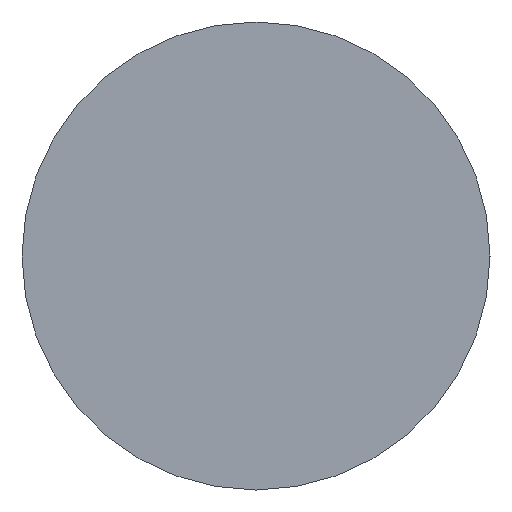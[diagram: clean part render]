
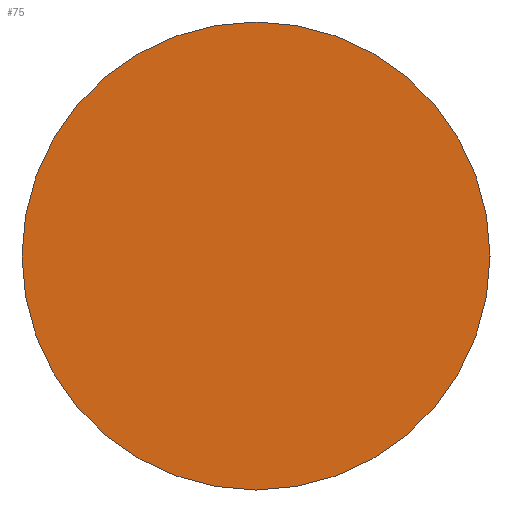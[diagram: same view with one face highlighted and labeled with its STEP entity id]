
A CAD part, left-side view. The second image highlights one B-rep face of the part: STEP entity #75.
In plain terms, the highlighted planar face has unit normal (-1, 0, 0).
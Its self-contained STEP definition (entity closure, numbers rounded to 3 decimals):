
#40 = FACE_OUTER_BOUND ( 'NONE', #197, .T. ) ;
#44 = AXIS2_PLACEMENT_3D ( 'NONE', #99, #371, #459 ) ;
#48 = CARTESIAN_POINT ( 'NONE',  ( 0., 0., 15.5 ) ) ;
#75 = ADVANCED_FACE ( 'NONE', ( #40 ), #229, .F. ) ;
#99 = CARTESIAN_POINT ( 'NONE',  ( 0., 0., 0. ) ) ;
#120 = CARTESIAN_POINT ( 'NONE',  ( 0., 0., 0. ) ) ;
#138 = CIRCLE ( 'NONE', #463, 15.5 ) ;
#176 = ORIENTED_EDGE ( 'NONE', *, *, #486, .T. ) ;
#177 = EDGE_CURVE ( 'NONE', #621, #304, #138, .T. ) ;
#189 = DIRECTION ( 'NONE',  ( 0., 0., 1. ) ) ;
#197 = EDGE_LOOP ( 'NONE', ( #596, #176 ) ) ;
#229 = PLANE ( 'NONE',  #44 ) ;
#304 = VERTEX_POINT ( 'NONE', #353 ) ;
#322 = CARTESIAN_POINT ( 'NONE',  ( 0., 0., 0. ) ) ;
#353 = CARTESIAN_POINT ( 'NONE',  ( 0., 0., -15.5 ) ) ;
#358 = DIRECTION ( 'NONE',  ( -1., 0., 0. ) ) ;
#371 = DIRECTION ( 'NONE',  ( 1., 0., 0. ) ) ;
#382 = CIRCLE ( 'NONE', #639, 15.5 ) ;
#459 = DIRECTION ( 'NONE',  ( 0., 0., -1. ) ) ;
#463 = AXIS2_PLACEMENT_3D ( 'NONE', #120, #358, #189 ) ;
#486 = EDGE_CURVE ( 'NONE', #304, #621, #382, .T. ) ;
#505 = DIRECTION ( 'NONE',  ( 0., 0., 1. ) ) ;
#596 = ORIENTED_EDGE ( 'NONE', *, *, #177, .T. ) ;
#601 = DIRECTION ( 'NONE',  ( -1., 0., 0. ) ) ;
#621 = VERTEX_POINT ( 'NONE', #48 ) ;
#639 = AXIS2_PLACEMENT_3D ( 'NONE', #322, #601, #505 ) ;
